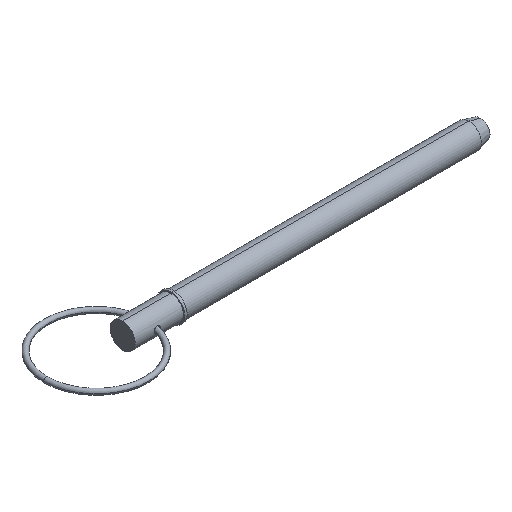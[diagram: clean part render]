
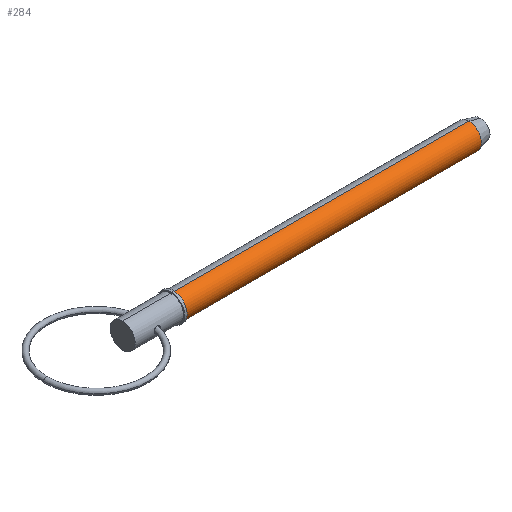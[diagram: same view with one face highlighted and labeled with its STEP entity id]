
A CAD part, isometric view. The second image highlights one B-rep face of the part: STEP entity #284.
In plain terms, the highlighted cylindrical face has radius 6.35 mm (diameter 12.7 mm), a partial arc.
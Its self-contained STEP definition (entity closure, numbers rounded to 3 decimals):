
#3 = LINE ( 'NONE', #893, #25 ) ;
#7 = AXIS2_PLACEMENT_3D ( 'NONE', #319, #570, #559 ) ;
#14 = EDGE_CURVE ( 'NONE', #260, #836, #432, .T. ) ;
#17 = CARTESIAN_POINT ( 'NONE',  ( 0., 0., -6.35 ) ) ;
#25 = VECTOR ( 'NONE', #337, 1000. ) ;
#55 = FACE_OUTER_BOUND ( 'NONE', #417, .T. ) ;
#105 = ORIENTED_EDGE ( 'NONE', *, *, #660, .T. ) ;
#135 = CIRCLE ( 'NONE', #7, 6.35 ) ;
#250 = DIRECTION ( 'NONE',  ( 0., 0., -1. ) ) ;
#260 = VERTEX_POINT ( 'NONE', #318 ) ;
#284 = ADVANCED_FACE ( 'NONE', ( #55 ), #756, .T. ) ;
#292 = CARTESIAN_POINT ( 'NONE',  ( 25.7, 0., 6.35 ) ) ;
#294 = CARTESIAN_POINT ( 'NONE',  ( 175.355, 0., 6.35 ) ) ;
#306 = VERTEX_POINT ( 'NONE', #294 ) ;
#318 = CARTESIAN_POINT ( 'NONE',  ( 25.7, 0., -6.35 ) ) ;
#319 = CARTESIAN_POINT ( 'NONE',  ( 175.355, 0., 0. ) ) ;
#328 = CARTESIAN_POINT ( 'NONE',  ( 25.7, 0., 0. ) ) ;
#337 = DIRECTION ( 'NONE',  ( 1., 0., 0. ) ) ;
#341 = ORIENTED_EDGE ( 'NONE', *, *, #14, .T. ) ;
#417 = EDGE_LOOP ( 'NONE', ( #1036, #105, #341, #787 ) ) ;
#432 = LINE ( 'NONE', #17, #861 ) ;
#441 = CIRCLE ( 'NONE', #884, 6.35 ) ;
#499 = VERTEX_POINT ( 'NONE', #292 ) ;
#506 = DIRECTION ( 'NONE',  ( 1., 0., 0. ) ) ;
#559 = DIRECTION ( 'NONE',  ( 0., 0., -1. ) ) ;
#570 = DIRECTION ( 'NONE',  ( 1., 0., 0. ) ) ;
#583 = EDGE_CURVE ( 'NONE', #499, #306, #3, .T. ) ;
#660 = EDGE_CURVE ( 'NONE', #499, #260, #441, .T. ) ;
#703 = CARTESIAN_POINT ( 'NONE',  ( 175.355, 0., -6.35 ) ) ;
#754 = DIRECTION ( 'NONE',  ( 1., 0., 0. ) ) ;
#756 = CYLINDRICAL_SURFACE ( 'NONE', #848, 6.35 ) ;
#787 = ORIENTED_EDGE ( 'NONE', *, *, #881, .F. ) ;
#836 = VERTEX_POINT ( 'NONE', #703 ) ;
#848 = AXIS2_PLACEMENT_3D ( 'NONE', #917, #506, #1019 ) ;
#861 = VECTOR ( 'NONE', #754, 1000. ) ;
#881 = EDGE_CURVE ( 'NONE', #306, #836, #135, .T. ) ;
#884 = AXIS2_PLACEMENT_3D ( 'NONE', #328, #999, #250 ) ;
#893 = CARTESIAN_POINT ( 'NONE',  ( 0., 0., 6.35 ) ) ;
#917 = CARTESIAN_POINT ( 'NONE',  ( 0., 0., 0. ) ) ;
#999 = DIRECTION ( 'NONE',  ( 1., 0., 0. ) ) ;
#1019 = DIRECTION ( 'NONE',  ( 0., 0., -1. ) ) ;
#1036 = ORIENTED_EDGE ( 'NONE', *, *, #583, .F. ) ;
